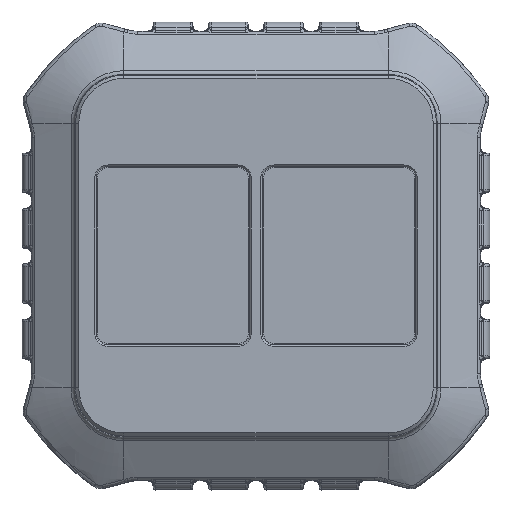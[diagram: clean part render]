
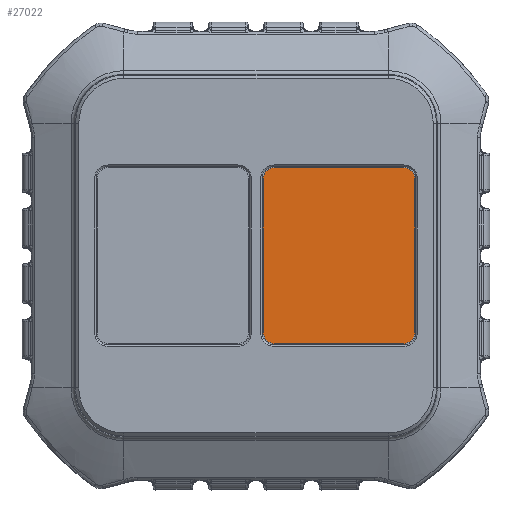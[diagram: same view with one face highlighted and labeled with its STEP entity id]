
A CAD part, top view. The second image highlights one B-rep face of the part: STEP entity #27022.
In plain terms, the highlighted planar face has unit normal (0, 0, 1).
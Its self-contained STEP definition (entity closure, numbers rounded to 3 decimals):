
#605 = ORIENTED_EDGE ( 'NONE', *, *, #124859, .T. ) ;
#1824 = CIRCLE ( 'NONE', #9254, 1.8 ) ;
#2728 = PLANE ( 'NONE',  #43590 ) ;
#9254 = AXIS2_PLACEMENT_3D ( 'NONE', #71638, #118149, #118906 ) ;
#10179 = CARTESIAN_POINT ( 'NONE',  ( 29.927, 36.901, 96.095 ) ) ;
#11731 = DIRECTION ( 'NONE',  ( 1., 0., 0. ) ) ;
#11919 = CARTESIAN_POINT ( 'NONE',  ( 17.627, 22.601, 96.095 ) ) ;
#14436 = CIRCLE ( 'NONE', #131045, 1.8 ) ;
#15642 = VERTEX_POINT ( 'NONE', #22962 ) ;
#22734 = CARTESIAN_POINT ( 'NONE',  ( 19.427, 51.201, 96.095 ) ) ;
#22909 = EDGE_CURVE ( 'NONE', #107959, #15642, #92965, .T. ) ;
#22962 = CARTESIAN_POINT ( 'NONE',  ( 40.427, 22.601, 96.095 ) ) ;
#27022 = ADVANCED_FACE ( 'NONE', ( #109307 ), #2728, .T. ) ;
#28833 = CARTESIAN_POINT ( 'NONE',  ( 42.227, 49.401, 96.095 ) ) ;
#33466 = VERTEX_POINT ( 'NONE', #28833 ) ;
#33799 = ORIENTED_EDGE ( 'NONE', *, *, #115571, .T. ) ;
#37918 = ORIENTED_EDGE ( 'NONE', *, *, #132506, .T. ) ;
#38317 = DIRECTION ( 'NONE',  ( 0., -1., 0. ) ) ;
#41540 = DIRECTION ( 'NONE',  ( 1., 0., 0. ) ) ;
#43590 = AXIS2_PLACEMENT_3D ( 'NONE', #10179, #151599, #126814 ) ;
#44028 = DIRECTION ( 'NONE',  ( 1., 0., 0. ) ) ;
#46001 = ORIENTED_EDGE ( 'NONE', *, *, #22909, .T. ) ;
#54812 = VERTEX_POINT ( 'NONE', #95089 ) ;
#55475 = ORIENTED_EDGE ( 'NONE', *, *, #57968, .T. ) ;
#56298 = DIRECTION ( 'NONE',  ( 1., 0., 0. ) ) ;
#57851 = DIRECTION ( 'NONE',  ( 0., 0., 1. ) ) ;
#57968 = EDGE_CURVE ( 'NONE', #60128, #54812, #1824, .T. ) ;
#58755 = EDGE_CURVE ( 'NONE', #151155, #60128, #91630, .T. ) ;
#60128 = VERTEX_POINT ( 'NONE', #22734 ) ;
#62228 = EDGE_LOOP ( 'NONE', ( #33799, #37918, #46001, #605, #89817, #85419, #149610, #55475 ) ) ;
#64150 = VECTOR ( 'NONE', #38317, 1000. ) ;
#67120 = LINE ( 'NONE', #139937, #142738 ) ;
#71638 = CARTESIAN_POINT ( 'NONE',  ( 19.427, 49.401, 96.095 ) ) ;
#81093 = CARTESIAN_POINT ( 'NONE',  ( 40.427, 49.401, 96.095 ) ) ;
#81447 = CARTESIAN_POINT ( 'NONE',  ( 17.627, 51.201, 96.095 ) ) ;
#82387 = VERTEX_POINT ( 'NONE', #108205 ) ;
#85419 = ORIENTED_EDGE ( 'NONE', *, *, #109352, .T. ) ;
#89737 = DIRECTION ( 'NONE',  ( 0., 0., 1. ) ) ;
#89817 = ORIENTED_EDGE ( 'NONE', *, *, #149215, .T. ) ;
#91630 = LINE ( 'NONE', #81447, #143180 ) ;
#92965 = LINE ( 'NONE', #11919, #119493 ) ;
#94195 = AXIS2_PLACEMENT_3D ( 'NONE', #147810, #98322, #41540 ) ;
#95089 = CARTESIAN_POINT ( 'NONE',  ( 17.627, 49.401, 96.095 ) ) ;
#97262 = CARTESIAN_POINT ( 'NONE',  ( 17.627, 24.401, 96.095 ) ) ;
#98322 = DIRECTION ( 'NONE',  ( 0., 0., 1. ) ) ;
#100295 = CARTESIAN_POINT ( 'NONE',  ( 40.427, 51.201, 96.095 ) ) ;
#101690 = DIRECTION ( 'NONE',  ( -1., 0., 0. ) ) ;
#106296 = AXIS2_PLACEMENT_3D ( 'NONE', #113678, #89737, #56298 ) ;
#107959 = VERTEX_POINT ( 'NONE', #131893 ) ;
#108205 = CARTESIAN_POINT ( 'NONE',  ( 42.227, 24.401, 96.095 ) ) ;
#109003 = CARTESIAN_POINT ( 'NONE',  ( 17.627, 51.201, 96.095 ) ) ;
#109307 = FACE_OUTER_BOUND ( 'NONE', #62228, .T. ) ;
#109352 = EDGE_CURVE ( 'NONE', #33466, #151155, #14436, .T. ) ;
#113678 = CARTESIAN_POINT ( 'NONE',  ( 40.427, 24.401, 96.095 ) ) ;
#115571 = EDGE_CURVE ( 'NONE', #54812, #151708, #135306, .T. ) ;
#118149 = DIRECTION ( 'NONE',  ( 0., 0., 1. ) ) ;
#118906 = DIRECTION ( 'NONE',  ( 1., 0., 0. ) ) ;
#119493 = VECTOR ( 'NONE', #44028, 1000. ) ;
#124859 = EDGE_CURVE ( 'NONE', #15642, #82387, #133518, .T. ) ;
#126308 = CIRCLE ( 'NONE', #94195, 1.8 ) ;
#126814 = DIRECTION ( 'NONE',  ( 1., 0., 0. ) ) ;
#131045 = AXIS2_PLACEMENT_3D ( 'NONE', #81093, #57851, #11731 ) ;
#131893 = CARTESIAN_POINT ( 'NONE',  ( 19.427, 22.601, 96.095 ) ) ;
#132506 = EDGE_CURVE ( 'NONE', #151708, #107959, #126308, .T. ) ;
#133518 = CIRCLE ( 'NONE', #106296, 1.8 ) ;
#135306 = LINE ( 'NONE', #109003, #64150 ) ;
#139937 = CARTESIAN_POINT ( 'NONE',  ( 42.227, 51.201, 96.095 ) ) ;
#142738 = VECTOR ( 'NONE', #151550, 1000. ) ;
#143180 = VECTOR ( 'NONE', #101690, 1000. ) ;
#147810 = CARTESIAN_POINT ( 'NONE',  ( 19.427, 24.401, 96.095 ) ) ;
#149215 = EDGE_CURVE ( 'NONE', #82387, #33466, #67120, .T. ) ;
#149610 = ORIENTED_EDGE ( 'NONE', *, *, #58755, .T. ) ;
#151155 = VERTEX_POINT ( 'NONE', #100295 ) ;
#151550 = DIRECTION ( 'NONE',  ( 0., 1., 0. ) ) ;
#151599 = DIRECTION ( 'NONE',  ( 0., 0., 1. ) ) ;
#151708 = VERTEX_POINT ( 'NONE', #97262 ) ;
